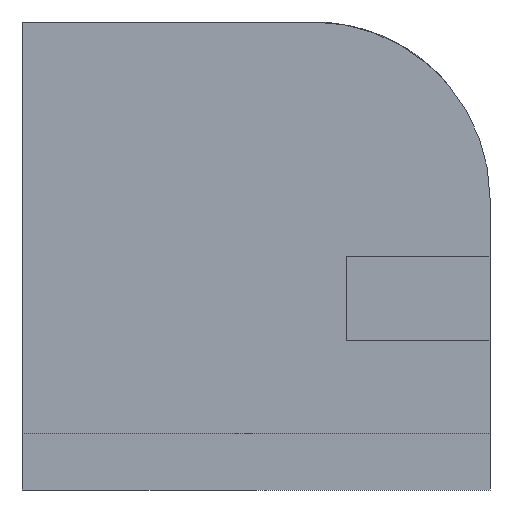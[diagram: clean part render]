
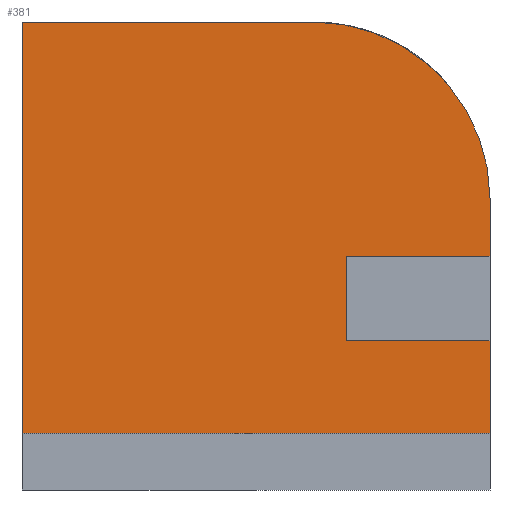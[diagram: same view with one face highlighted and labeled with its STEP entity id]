
A CAD part, left-side view. The second image highlights one B-rep face of the part: STEP entity #381.
In plain terms, the highlighted planar face has unit normal (-1, 0, 0).
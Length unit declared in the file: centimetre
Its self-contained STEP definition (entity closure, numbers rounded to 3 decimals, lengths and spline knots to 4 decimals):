
#2 = ORIENTED_EDGE ( 'NONE', *, *, #168, .F. ) ;
#8 = VERTEX_POINT ( 'NONE', #447 ) ;
#40 = DIRECTION ( 'NONE',  ( 0., 0., -1. ) ) ;
#44 = EDGE_CURVE ( 'NONE', #428, #736, #162, .T. ) ;
#65 = ORIENTED_EDGE ( 'NONE', *, *, #774, .F. ) ;
#90 = ORIENTED_EDGE ( 'NONE', *, *, #576, .T. ) ;
#96 = EDGE_CURVE ( 'NONE', #635, #190, #760, .T. ) ;
#99 = ORIENTED_EDGE ( 'NONE', *, *, #44, .T. ) ;
#104 = VERTEX_POINT ( 'NONE', #399 ) ;
#106 = VECTOR ( 'NONE', #757, 100. ) ;
#115 = LINE ( 'NONE', #202, #237 ) ;
#132 = DIRECTION ( 'NONE',  ( 0., 0., -1. ) ) ;
#145 = CARTESIAN_POINT ( 'NONE',  ( 0., 1000., 1000. ) ) ;
#146 = EDGE_CURVE ( 'NONE', #104, #446, #211, .T. ) ;
#162 = LINE ( 'NONE', #145, #106 ) ;
#168 = EDGE_CURVE ( 'NONE', #428, #608, #638, .T. ) ;
#185 = VECTOR ( 'NONE', #472, 100. ) ;
#190 = VERTEX_POINT ( 'NONE', #788 ) ;
#199 = FACE_OUTER_BOUND ( 'NONE', #549, .T. ) ;
#202 = CARTESIAN_POINT ( 'NONE',  ( 0., 0., 121.1601 ) ) ;
#211 = LINE ( 'NONE', #291, #575 ) ;
#232 = ORIENTED_EDGE ( 'NONE', *, *, #96, .F. ) ;
#233 = CARTESIAN_POINT ( 'NONE',  ( 0., 0., 1000. ) ) ;
#237 = VECTOR ( 'NONE', #756, 100. ) ;
#238 = LINE ( 'NONE', #233, #185 ) ;
#281 = CARTESIAN_POINT ( 'NONE',  ( 0., 1000., 1000. ) ) ;
#283 = AXIS2_PLACEMENT_3D ( 'NONE', #475, #536, #416 ) ;
#291 = CARTESIAN_POINT ( 'NONE',  ( 0., 307.6555, 318.7603 ) ) ;
#316 = VECTOR ( 'NONE', #773, 100. ) ;
#328 = ORIENTED_EDGE ( 'NONE', *, *, #456, .T. ) ;
#342 = CARTESIAN_POINT ( 'NONE',  ( 0., 0., 622.1255 ) ) ;
#352 = ORIENTED_EDGE ( 'NONE', *, *, #438, .F. ) ;
#363 = VECTOR ( 'NONE', #663, 100. ) ;
#379 = CARTESIAN_POINT ( 'NONE',  ( 0., 307.6555, 500. ) ) ;
#381 = ADVANCED_FACE ( 'NONE', ( #199 ), #571, .F. ) ;
#396 = AXIS2_PLACEMENT_3D ( 'NONE', #281, #441, #132 ) ;
#399 = CARTESIAN_POINT ( 'NONE',  ( 0., 307.6555, 318.7603 ) ) ;
#416 = DIRECTION ( 'NONE',  ( 0., 0., -1. ) ) ;
#428 = VERTEX_POINT ( 'NONE', #525 ) ;
#436 = CARTESIAN_POINT ( 'NONE',  ( 0., 307.6555, 500. ) ) ;
#438 = EDGE_CURVE ( 'NONE', #446, #8, #238, .T. ) ;
#441 = DIRECTION ( 'NONE',  ( 1., 0., 0. ) ) ;
#446 = VERTEX_POINT ( 'NONE', #720 ) ;
#447 = CARTESIAN_POINT ( 'NONE',  ( 0., 0., 121.1601 ) ) ;
#451 = CARTESIAN_POINT ( 'NONE',  ( 0., 0., 1000. ) ) ;
#456 = EDGE_CURVE ( 'NONE', #635, #608, #691, .T. ) ;
#472 = DIRECTION ( 'NONE',  ( 0., 0., -1. ) ) ;
#475 = CARTESIAN_POINT ( 'NONE',  ( 0., 377.8745, 622.1255 ) ) ;
#502 = LINE ( 'NONE', #379, #363 ) ;
#503 = VERTEX_POINT ( 'NONE', #436 ) ;
#506 = DIRECTION ( 'NONE',  ( 0., -1., 0. ) ) ;
#515 = CARTESIAN_POINT ( 'NONE',  ( 0., 1000., 1000. ) ) ;
#525 = CARTESIAN_POINT ( 'NONE',  ( 0., 1000., 1000. ) ) ;
#536 = DIRECTION ( 'NONE',  ( -1., 0., 0. ) ) ;
#537 = EDGE_CURVE ( 'NONE', #8, #736, #115, .T. ) ;
#549 = EDGE_LOOP ( 'NONE', ( #65, #90, #232, #328, #2, #99, #567, #352, #770 ) ) ;
#551 = CARTESIAN_POINT ( 'NONE',  ( 0., 377.8745, 1000. ) ) ;
#562 = VECTOR ( 'NONE', #40, 100. ) ;
#567 = ORIENTED_EDGE ( 'NONE', *, *, #537, .F. ) ;
#571 = PLANE ( 'NONE',  #396 ) ;
#575 = VECTOR ( 'NONE', #506, 100. ) ;
#576 = EDGE_CURVE ( 'NONE', #503, #190, #502, .T. ) ;
#608 = VERTEX_POINT ( 'NONE', #551 ) ;
#635 = VERTEX_POINT ( 'NONE', #342 ) ;
#638 = LINE ( 'NONE', #515, #316 ) ;
#663 = DIRECTION ( 'NONE',  ( 0., -1., 0. ) ) ;
#691 = CIRCLE ( 'NONE', #283, 377.8745 ) ;
#693 = DIRECTION ( 'NONE',  ( 0., 0., -1. ) ) ;
#715 = CARTESIAN_POINT ( 'NONE',  ( 0., 307.6555, 318.7603 ) ) ;
#720 = CARTESIAN_POINT ( 'NONE',  ( 0., 0., 318.7603 ) ) ;
#736 = VERTEX_POINT ( 'NONE', #747 ) ;
#747 = CARTESIAN_POINT ( 'NONE',  ( 0., 1000., 121.1601 ) ) ;
#756 = DIRECTION ( 'NONE',  ( 0., 1., 0. ) ) ;
#757 = DIRECTION ( 'NONE',  ( 0., 0., -1. ) ) ;
#760 = LINE ( 'NONE', #451, #761 ) ;
#761 = VECTOR ( 'NONE', #693, 100. ) ;
#770 = ORIENTED_EDGE ( 'NONE', *, *, #146, .F. ) ;
#771 = LINE ( 'NONE', #715, #562 ) ;
#773 = DIRECTION ( 'NONE',  ( 0., -1., 0. ) ) ;
#774 = EDGE_CURVE ( 'NONE', #503, #104, #771, .T. ) ;
#788 = CARTESIAN_POINT ( 'NONE',  ( 0., 0., 500. ) ) ;
